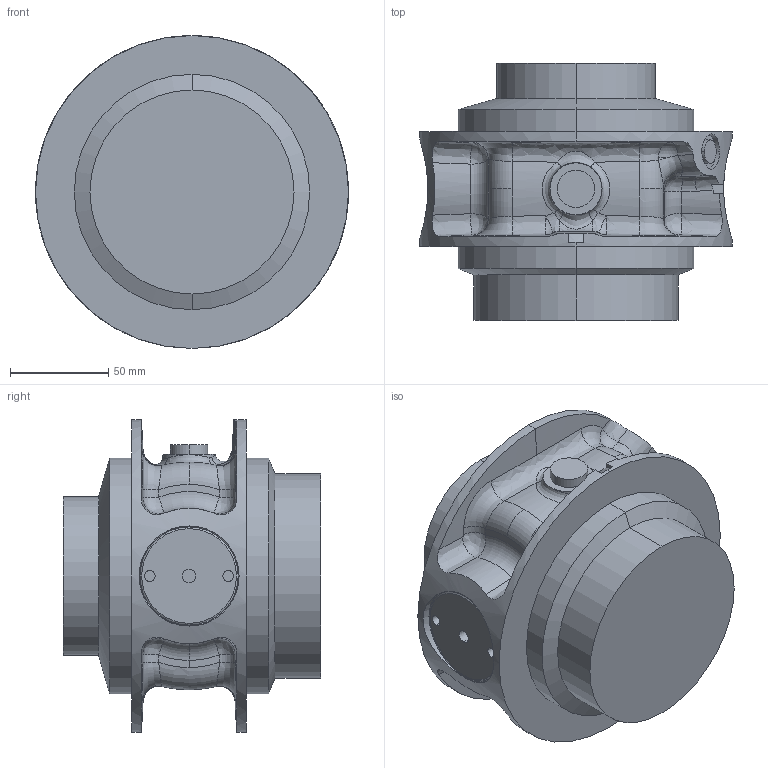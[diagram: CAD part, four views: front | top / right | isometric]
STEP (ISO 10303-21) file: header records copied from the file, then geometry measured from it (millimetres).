
FILE_DESCRIPTION (( 'STEP AP214' ), '1' );
FILE_NAME ('IRB4600_45kg-205_LINK5_CAD_rev04.STEP', '2016-12-06T10:31:20', ( 'ABB' ), ( 'ABB' ), 'SwSTEP 2.0', 'SolidWorks 2014', '' );
FILE_SCHEMA (( 'AUTOMOTIVE_DESIGN' ));
Length unit declared in the file: millimetre
Products named in the file (1): IRB4600_45kg-205_LINK5_CAD_rev04
Bounding box: 159.5 x 131 x 159.5 mm (x, y, z)
Volume: 1502709.3 mm3; surface area: 102372.8 mm2
Topology: 1 solids, 1 shells, 161 faces, 375 edges, 226 vertices
Faces by surface type: bspline 55, cylinder 41, cone 27, plane 21, torus 12, sphere 5
Entity records: 8065 total; most frequent: CARTESIAN_POINT 4780, ORIENTED_EDGE 750, DIRECTION 590, EDGE_CURVE 375, AXIS2_PLACEMENT_3D 265, VERTEX_POINT 226, EDGE_LOOP 171, FACE_OUTER_BOUND 161
